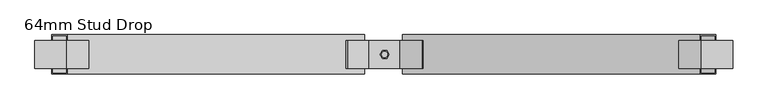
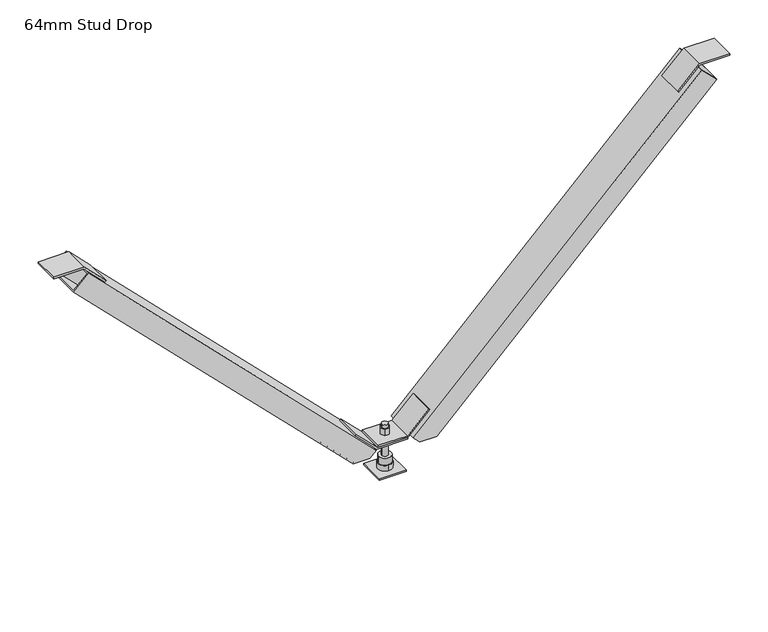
"""IFC4 building model written with IfcOpenShell, lengths in millimetres: beam geometry, Vertibrace Boxstud Brace : 64mm Stud Drop."""

from ifc_helpers import new_model, si_unit, frame, origin, origin_with_axes, place, context, project, spatial, polyline, circle_curve, outline, extrude, faceted_brep, source, transform, mapped, element, save
from ifc_brep_helpers import plane_surface, cylinder_surface, advanced_brep


def beam_64mm_stud_drop_543df7c1(model_context):
    return source(origin(), model_context, "Body", "SolidModel", [
        extrude(outline(polyline([(547.0013294, 513.8434194), (547.0013294, 563.8278886), (550.0, 563.8278886), (550.0, 512.6013294), (513.7773526, 476.378682), (511.6569723, 478.4990623), (547.0013294, 513.8434194)])), frame((0.0, -22.5, 0.0), z_axis=(0.0, 1.0, 0.0), x_axis=(0.0, 0.0, 1.0)), (0.0, 0.0, 1.0), 45.0),
        extrude(outline(polyline([(547.0013294, -516.535654), (511.6569723, -481.1912969), (513.7773526, -479.0709166), (550.0, -515.293564), (550.0, -566.5201232), (547.0013294, -566.5201232), (547.0013294, -516.535654)])), frame((0.0, -22.5, 0.0), z_axis=(0.0, 1.0, 0.0), x_axis=(0.0, 0.0, 1.0)), (0.0, 0.0, 1.0), 45.0),
        extrude(outline(polyline([(62.6986706, 24.9922346), (62.6986706, -24.9922346), (59.7, -24.9922346), (59.7, 26.2343246), (95.9226474, 62.456972), (98.0430277, 60.3365917), (62.6986706, 24.9922346)])), frame((0.0, -22.5, 0.0), z_axis=(0.0, 1.0, 0.0), x_axis=(0.0, 0.0, 1.0)), (0.0, 0.0, 1.0), 45.0),
        extrude(outline(polyline([(59.6986706, -24.9922346), (95.0430277, -60.3365917), (92.9226474, -62.456972), (56.7, -26.2343246), (56.7, 24.9922346), (59.6986706, 24.9922346), (59.6986706, -24.9922346)])), frame((0.0, -22.5, 0.0), z_axis=(0.0, 1.0, 0.0), x_axis=(0.0, 0.0, 1.0)), (0.0, 0.0, 1.0), 45.0),
        extrude(outline(polyline([(22.5, 22.5), (22.5, -22.5), (-22.5, -22.5), (-22.5, 22.5), (22.5, 22.5)])), origin_with_axes(), (0.0, 0.0, 1.0), 3.0),
        advanced_brep(
        [(-5.0, 0.0, -10.0), (5.0, 0.0, -10.0), (-5.0, 0.0, 80.0), (5.0, 0.0, 80.0), (5.0, 0.0, 3.0), (-5.0, 0.0, 3.0), (-5.0, 0.0, 74.4), (5.0, 0.0, 74.4), (-5.0, 0.0, 25.0), (5.0, 0.0, 25.0), (5.0, 0.0, 50.0), (-5.0, 0.0, 50.0), (5.0, 0.0, 62.7), (-5.0, 0.0, 62.7), (-5.0, 0.0, 56.7), (5.0, 0.0, 56.7), (-10.5, 0.0, 25.0), (10.5, 0.0, 25.0), (-10.5, 0.0, 13.0), (10.5, 0.0, 13.0), (0.0, -12.0, 13.0), (0.0, 12.0, 13.0), (3.75, 6.4951905, 74.4), (-3.75, 6.4951905, 74.4), (-7.5, 0.0, 74.4), (-3.75, -6.4951905, 74.4), (3.75, -6.4951905, 74.4), (7.5, 0.0, 74.4), (3.75, 6.4951905, 62.7), (7.5, 0.0, 62.7), (3.75, -6.4951905, 62.7), (-3.75, -6.4951905, 62.7), (-7.5, 0.0, 62.7), (-3.75, 6.4951905, 62.7), (-10.9696551, 0.0, 56.7), (-5.4848276, -9.5, 56.7), (5.4848276, -9.5, 56.7), (10.9696551, 0.0, 56.7), (5.4848276, 9.5, 56.7), (-5.4848276, 9.5, 56.7), (-10.9696551, 0.0, 50.0), (-5.4848276, 9.5, 50.0), (5.4848276, 9.5, 50.0), (10.9696551, 0.0, 50.0), (5.4848276, -9.5, 50.0), (-5.4848276, -9.5, 50.0), (0.0, -12.0, 3.0), (0.0, 12.0, 3.0)],
        [
            (0, 1, circle_curve(frame((0.0, 0.0, -10.0), z_axis=(0.0, 0.0, -1.0), x_axis=(1.0, 0.0, 0.0)), 5.0)),
            (1, 0, circle_curve(frame((0.0, 0.0, -10.0), z_axis=(0.0, 0.0, -1.0), x_axis=(1.0, 0.0, 0.0)), 5.0)),
            (2, 3, circle_curve(frame((0.0, 0.0, 80.0), z_axis=(0.0, 0.0, 1.0), x_axis=(1.0, 0.0, 0.0)), 5.0)),
            (3, 2, circle_curve(frame((0.0, 0.0, 80.0), z_axis=(0.0, 0.0, 1.0), x_axis=(1.0, 0.0, 0.0)), 5.0)),
            (1, 4),
            (4, 5, circle_curve(frame((0.0, 0.0, 3.0), z_axis=(0.0, 0.0, -1.0), x_axis=(1.0, 0.0, 0.0)), 5.0)),
            (5, 0),
            (2, 6),
            (6, 7, circle_curve(frame((0.0, 0.0, 74.4), z_axis=(0.0, 0.0, 1.0), x_axis=(1.0, 0.0, 0.0)), 5.0)),
            (7, 3),
            (8, 9, circle_curve(frame((0.0, 0.0, 25.0), z_axis=(0.0, 0.0, 1.0), x_axis=(1.0, 0.0, 0.0)), 5.0)),
            (9, 10),
            (10, 11, circle_curve(frame((0.0, 0.0, 50.0), z_axis=(0.0, 0.0, -1.0), x_axis=(1.0, 0.0, 0.0)), 5.0)),
            (11, 8),
            (12, 13, circle_curve(frame((0.0, 0.0, 62.7), z_axis=(0.0, 0.0, -1.0), x_axis=(1.0, 0.0, 0.0)), 5.0)),
            (13, 14),
            (14, 15, circle_curve(frame((0.0, 0.0, 56.7), z_axis=(0.0, 0.0, 1.0), x_axis=(1.0, 0.0, 0.0)), 5.0)),
            (15, 12),
            (5, 4, circle_curve(frame((0.0, 0.0, 3.0), z_axis=(0.0, 0.0, -1.0), x_axis=(1.0, 0.0, 0.0)), 5.0)),
            (7, 6, circle_curve(frame((0.0, 0.0, 74.4), z_axis=(0.0, 0.0, 1.0), x_axis=(1.0, 0.0, 0.0)), 5.0)),
            (9, 8, circle_curve(frame((0.0, 0.0, 25.0), z_axis=(0.0, 0.0, 1.0), x_axis=(1.0, 0.0, 0.0)), 5.0)),
            (11, 10, circle_curve(frame((0.0, 0.0, 50.0), z_axis=(0.0, 0.0, -1.0), x_axis=(1.0, 0.0, 0.0)), 5.0)),
            (13, 12, circle_curve(frame((0.0, 0.0, 62.7), z_axis=(0.0, 0.0, -1.0), x_axis=(1.0, 0.0, 0.0)), 5.0)),
            (15, 14, circle_curve(frame((0.0, 0.0, 56.7), z_axis=(0.0, 0.0, 1.0), x_axis=(1.0, 0.0, 0.0)), 5.0)),
            (16, 17, circle_curve(frame((0.0, 0.0, 25.0), z_axis=(0.0, 0.0, 1.0), x_axis=(1.0, 0.0, 0.0)), 10.5)),
            (17, 16, circle_curve(frame((0.0, 0.0, 25.0), z_axis=(0.0, 0.0, 1.0), x_axis=(1.0, 0.0, 0.0)), 10.5)),
            (16, 18),
            (18, 19, circle_curve(frame((0.0, 0.0, 13.0), z_axis=(0.0, 0.0, 1.0), x_axis=(1.0, 0.0, 0.0)), 10.5)),
            (19, 17),
            (19, 18, circle_curve(frame((0.0, 0.0, 13.0), z_axis=(0.0, 0.0, 1.0), x_axis=(1.0, 0.0, 0.0)), 10.5)),
            (20, 21, circle_curve(frame((0.0, 0.0, 13.0), z_axis=(0.0, 0.0, 1.0), x_axis=(0.0, 1.0, 0.0)), 12.0)),
            (21, 20, circle_curve(frame((0.0, 0.0, 13.0), z_axis=(0.0, 0.0, 1.0), x_axis=(0.0, 1.0, 0.0)), 12.0)),
            (22, 23),
            (23, 24),
            (24, 25),
            (25, 26),
            (26, 27),
            (27, 22),
            (28, 29),
            (29, 30),
            (30, 31),
            (31, 32),
            (32, 33),
            (33, 28),
            (22, 28),
            (33, 23),
            (32, 24),
            (31, 25),
            (30, 26),
            (29, 27),
            (34, 35),
            (35, 36),
            (36, 37),
            (37, 38),
            (38, 39),
            (39, 34),
            (40, 41),
            (41, 42),
            (42, 43),
            (43, 44),
            (44, 45),
            (45, 40),
            (34, 40),
            (45, 35),
            (44, 36),
            (43, 37),
            (42, 38),
            (41, 39),
            (46, 47, circle_curve(frame((0.0, 0.0, 3.0), z_axis=(0.0, 0.0, -1.0), x_axis=(0.0, 1.0, 0.0)), 12.0)),
            (47, 46, circle_curve(frame((0.0, 0.0, 3.0), z_axis=(0.0, 0.0, -1.0), x_axis=(0.0, 1.0, 0.0)), 12.0)),
            (47, 21),
            (20, 46),
        ],
        [
            plane_surface(frame((5.0, 0.0, -10.0), z_axis=(0.0, 0.0, -1.0), x_axis=(0.0, -1.0, 0.0))),
            plane_surface(frame((5.0, 0.0, 80.0), z_axis=(0.0, 0.0, 1.0), x_axis=(0.0, 1.0, 0.0))),
            cylinder_surface(frame((0.0, 0.0, -10.0), z_axis=(0.0, 0.0, 1.0), x_axis=(1.0, 0.0, 0.0)), 5.0),
            plane_surface(frame((10.5, 0.0, 25.0), z_axis=(0.0, 0.0, 1.0), x_axis=(0.0, 1.0, 0.0))),
            cylinder_surface(frame((0.0, 0.0, 13.0), z_axis=(0.0, 0.0, 1.0), x_axis=(1.0, 0.0, 0.0)), 10.5),
            plane_surface(frame((0.0, 12.0, 13.0), z_axis=(0.0, 0.0, 1.0), x_axis=(-1.0, 0.0, 0.0))),
            plane_surface(frame((3.75, 6.4951905, 74.4), z_axis=(0.0, 0.0, 1.0), x_axis=(-1.0, 0.0, 0.0))),
            plane_surface(frame((3.75, 6.4951905, 62.7), z_axis=(0.0, 0.0, -1.0), x_axis=(1.0, 0.0, 0.0))),
            plane_surface(frame((3.75, 6.4951905, 74.4), z_axis=(0.0, 1.0, 0.0), x_axis=(0.0, 0.0, -1.0))),
            plane_surface(frame((-3.75, 6.4951905, 74.4), z_axis=(-0.866025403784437, 0.5000000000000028, 0.0), x_axis=(0.0, 0.0, -1.0))),
            plane_surface(frame((-7.5, 0.0, 74.4), z_axis=(-0.8660254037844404, -0.4999999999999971, 0.0), x_axis=(0.0, 0.0, -1.0))),
            plane_surface(frame((-3.75, -6.4951905, 74.4), z_axis=(0.0, -1.0, 0.0), x_axis=(0.0, 0.0, -1.0))),
            plane_surface(frame((3.75, -6.4951905, 74.4), z_axis=(0.8660254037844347, -0.500000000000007, 0.0), x_axis=(0.0, 0.0, -1.0))),
            plane_surface(frame((7.5, 0.0, 74.4), z_axis=(0.8660254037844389, 0.49999999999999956, 0.0), x_axis=(0.0, 0.0, -1.0))),
            plane_surface(frame((-10.9696551, 0.0, 56.7), z_axis=(0.0, 0.0, 1.0), x_axis=(0.49999999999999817, -0.8660254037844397, 0.0))),
            plane_surface(frame((-10.9696551, 0.0, 50.0), z_axis=(0.0, 0.0, -1.0), x_axis=(-0.49999999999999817, 0.8660254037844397, 0.0))),
            plane_surface(frame((-10.9696551, 0.0, 56.7), z_axis=(-0.8660254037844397, -0.49999999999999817, 0.0), x_axis=(0.0, 0.0, -1.0))),
            plane_surface(frame((-5.4848276, -9.5, 56.7), z_axis=(0.0, -1.0, 0.0), x_axis=(0.0, 0.0, -1.0))),
            plane_surface(frame((5.4848276, -9.5, 56.7), z_axis=(0.8660254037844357, -0.5000000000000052, 0.0), x_axis=(0.0, 0.0, -1.0))),
            plane_surface(frame((10.9696551, 0.0, 56.7), z_axis=(0.8660254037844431, 0.49999999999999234, 0.0), x_axis=(0.0, 0.0, -1.0))),
            plane_surface(frame((5.4848276, 9.5, 56.7), z_axis=(0.0, 1.0, 0.0), x_axis=(0.0, 0.0, -1.0))),
            plane_surface(frame((-5.4848276, 9.5, 56.7), z_axis=(-0.866025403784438, 0.5000000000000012, 0.0), x_axis=(0.0, 0.0, -1.0))),
            plane_surface(frame((0.0, 12.0, 3.0), z_axis=(0.0, 0.0, -1.0), x_axis=(1.0, 0.0, 0.0))),
            cylinder_surface(frame((0.0, 0.0, 3.0), z_axis=(0.0, 0.0, 1.0), x_axis=(0.0, 1.0, 0.0)), 12.0),
        ],
        [
            (0, [[1, 2]]),
            (1, [[3, 4]]),
            (2, [[-2, 5, 6, 7]]),
            (2, [[-3, 8, 9, 10]]),
            (2, [[11, 12, 13, 14]]),
            (2, [[15, 16, 17, 18]]),
            (2, [[-1, -7, 19, -5]]),
            (2, [[-4, -10, 20, -8]]),
            (2, [[21, -14, 22, -12]]),
            (2, [[23, -18, 24, -16]]),
            (3, [[25, 26], [-11, -21]]),
            (4, [[-25, 27, 28, 29]]),
            (4, [[-26, -29, 30, -27]]),
            (5, [[31, 32], [-28, -30]]),
            (6, [[33, 34, 35, 36, 37, 38], [-9, -20]]),
            (7, [[39, 40, 41, 42, 43, 44], [-15, -23]]),
            (8, [[-33, 45, -44, 46]]),
            (9, [[-34, -46, -43, 47]]),
            (10, [[-35, -47, -42, 48]]),
            (11, [[-36, -48, -41, 49]]),
            (12, [[-37, -49, -40, 50]]),
            (13, [[-38, -50, -39, -45]]),
            (14, [[51, 52, 53, 54, 55, 56], [-17, -24]]),
            (15, [[57, 58, 59, 60, 61, 62], [-13, -22]]),
            (16, [[-51, 63, -62, 64]]),
            (17, [[-52, -64, -61, 65]]),
            (18, [[-53, -65, -60, 66]]),
            (19, [[-54, -66, -59, 67]]),
            (20, [[-55, -67, -58, 68]]),
            (21, [[-56, -68, -57, -63]]),
            (22, [[69, 70], [-6, -19]]),
            (23, [[-70, 71, -31, 72]]),
            (23, [[-69, -72, -32, -71]]),
        ],
    ),
        faceted_brep([(39.9343246, 30.0, 52.0), (39.9343246, 32.0, 52.0), (68.0317993, 32.0, 52.0), (68.0317993, -32.0, 52.0), (39.9343246, -32.0, 52.0), (39.9343246, -30.0, 52.0), (65.2033722, -30.0, 52.0), (65.2033722, 30.0, 52.0), (29.2343246, -32.0, 62.7), (29.2343246, 32.0, 62.7), (30.6485382, 30.0, 61.2857864), (30.6485382, -30.0, 61.2857864), (511.5343246, 32.0, 545.0), (511.5343246, -32.0, 545.0), (536.283062, -32.0, 520.2512627), (536.283062, 32.0, 520.2512627), (534.8688484, -30.0, 521.6654762), (512.9485382, -30.0, 543.5857864), (512.9485382, 30.0, 543.5857864), (534.8688484, 30.0, 521.6654762)], [[[0, 1, 2, 3, 4, 5, 6, 7]], [[8, 9, 1, 0, 10, 11, 5, 4]], [[12, 13, 14, 15], [16, 17, 18, 19]], [[12, 15, 2, 1, 9]], [[15, 14, 3, 2]], [[16, 19, 7, 6]], [[19, 18, 10, 0, 7]], [[11, 10, 18, 17]], [[17, 16, 6, 5, 11]], [[14, 13, 8, 4, 3]], [[9, 8, 13, 12]]]),
        faceted_brep([(-32.5343246, 32.0, 63.0), (-32.5343246, -32.0, 63.0), (-43.5343246, -32.0, 52.0), (-43.5343246, -30.0, 52.0), (-33.9485382, -30.0, 61.5857864), (-33.9485382, 30.0, 61.5857864), (-43.5343246, 30.0, 52.0), (-43.5343246, 32.0, 52.0), (-514.4883773, -32.0, 544.9540527), (-514.4883773, 32.0, 544.9540527), (-539.2371147, 32.0, 520.2053154), (-539.2371147, -32.0, 520.2053154), (-537.8229011, 30.0, 521.6195289), (-515.9025909, 30.0, 543.5398392), (-515.9025909, -30.0, 543.5398392), (-537.8229011, -30.0, 521.6195289), (-71.0317993, -32.0, 52.0), (-71.0317993, 32.0, 52.0), (-68.2033722, 30.0, 52.0), (-68.2033722, -30.0, 52.0)], [[[0, 1, 2, 3, 4, 5, 6, 7]], [[8, 9, 10, 11], [12, 13, 14, 15]], [[8, 11, 16, 2, 1]], [[11, 10, 17, 16]], [[10, 9, 0, 7, 17]], [[1, 0, 9, 8]], [[3, 2, 16, 17, 7, 6, 18, 19]], [[12, 15, 19, 18]], [[15, 14, 4, 3, 19]], [[5, 4, 14, 13]], [[13, 12, 18, 6, 5]]]),
    ])


if __name__ == "__main__":
    model = new_model("IFC4")
    model_context = context("Model", 3, world=origin())
    ifc_project = project(units=[si_unit("LENGTHUNIT", "METRE", prefix="MILLI")], contexts=[model_context])
    site = spatial("IfcSite", under=ifc_project)
    building = spatial("IfcBuilding", under=site)
    placement = place(None, origin())
    beam_64mm_stud_drop_shape = beam_64mm_stud_drop_543df7c1(model_context)
    element("IfcBeam", 1, ObjectType="Vertibrace Boxstud Brace : 64mm Stud Drop", at=placement, inside=building, context=model_context, shape_type="MappedRepresentation", body=[
        mapped(beam_64mm_stud_drop_shape, transform((0.0, 0.0, 0.0), x_axis=(1.0, 0.0, 0.0), y_axis=(0.0, 1.0, 0.0), z_axis=(0.0, 0.0, 1.0))),
    ])
    save(model, "model.ifc")
